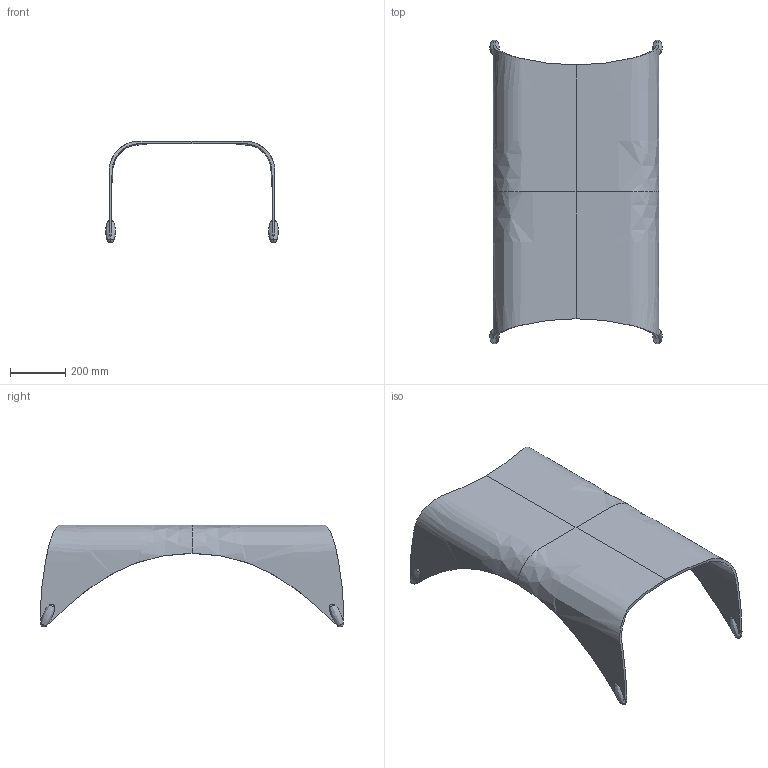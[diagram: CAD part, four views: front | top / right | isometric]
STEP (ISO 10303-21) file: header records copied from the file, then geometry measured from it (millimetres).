
FILE_DESCRIPTION(/* description */ (''),/* implementation_level */ '2;1');
FILE_NAME(/* name */ '038 - Genio 110x62',/* time_stamp */ '2010-11-04T08:46:58+01:00',/* author */ (''),/* organization */ (''),/* preprocessor_version */ 'ST-DEVELOPER v10',/* originating_system */ '',/* authorisation */ '');
FILE_SCHEMA (('CONFIG_CONTROL_DESIGN'));
Length unit declared in the file: centimetre
Products named in the file (1): 1
Bounding box: 625.9 x 1099.95 x 369.13 mm (x, y, z)
Volume: 8652321 mm3; surface area: 1823344.6 mm2
Topology: 5 solids, 5 shells, 48 faces, 108 edges, 62 vertices
Faces by surface type: bspline 40, plane 8
Entity records: 4822 total; most frequent: CARTESIAN_POINT 4120, ORIENTED_EDGE 200, EDGE_CURVE 100, VERTEX_POINT 62, B_SPLINE_CURVE_WITH_KNOTS 60, ADVANCED_FACE 48, FACE_OUTER_BOUND 48, EDGE_LOOP 48
